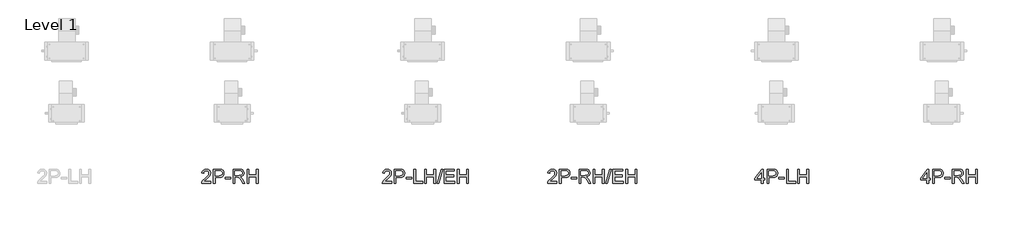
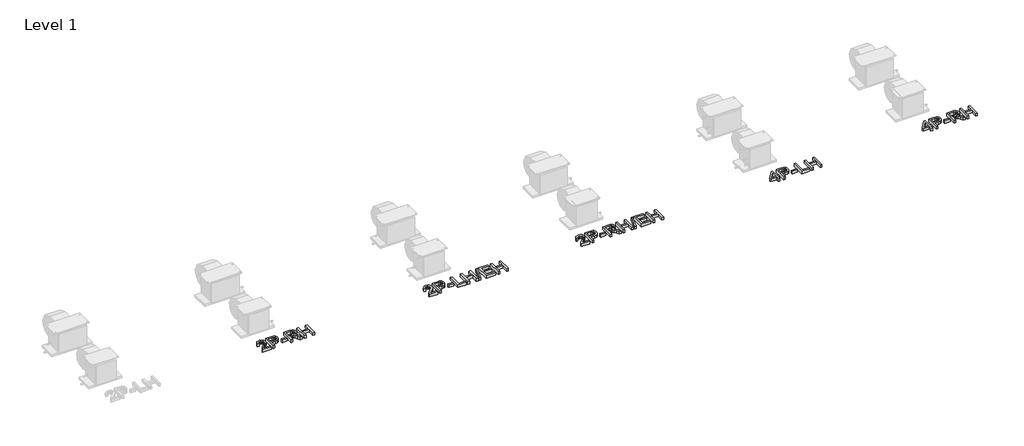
# One storey, part 2 of 2: 5 proxies.
"""IFC4 building model written with IfcOpenShell, lengths in millimetres."""

from ifc_helpers import new_model, si_unit, origin, origin_with_axes, place, context, project, spatial, polyline, outline, extrude, element, save

model = new_model("IFC4")

# Units and contexts
model_context = context("Model", 3, world=origin())
ifc_project = project(units=[si_unit("LENGTHUNIT", "METRE", prefix="MILLI")], contexts=[model_context])

# Site, building, storey
site = spatial("IfcSite", under=ifc_project)
building = spatial("IfcBuilding", under=site)
storey = spatial("IfcBuildingStorey", under=building, Name="Level 1", Elevation=0.0)

# Proxies
placement = place(None, origin())
element("IfcBuildingElementProxy", 1, Name="24\" Arial", ObjectType="24\" Arial", at=placement, inside=storey, context=model_context, shape_type="SweptSolid", body=[
    extrude(outline(polyline([(-21363.2392006, -5424.2929428), (-21363.2392006, -5452.9983334), (-21513.9425014, -5452.9983334), (-21510.8589145, -5433.2073121), (-21493.4226323, -5402.7358672), (-21457.4848288, -5369.4611614), (-21426.5087969, -5341.9471567), (-21407.9231778, -5321.6375321), (-21398.6303682, -5305.1543586), (-21395.5327651, -5289.1197068), (-21398.4551644, -5274.7459871), (-21407.2223626, -5262.7970879), (-21420.6990389, -5254.7447212), (-21437.7498728, -5252.060599), (-21455.6557011, -5254.6816479), (-21469.5668829, -5262.5447944), (-21478.5443256, -5275.0333213), (-21481.6489369, -5291.5305111), (-21510.3543276, -5287.9423373), (-21503.3952326, -5260.176039), (-21488.3487303, -5239.8944471), (-21465.9997335, -5227.4900181), (-21437.1331554, -5223.3552084), (-21408.0563327, -5227.9525561), (-21385.7493849, -5241.7445992), (-21371.557877, -5262.3485661), (-21366.8273744, -5287.3816851), (-21371.9293091, -5314.6013475), (-21388.889037, -5342.746086), (-21430.0128729, -5382.0758351), (-21463.0352852, -5409.687954), (-21475.9863501, -5424.2929428), (-21363.2392006, -5424.2929428)])), origin_with_axes(), (0.0, 0.0, 1.0), 50.8),
    extrude(outline(polyline([(-21323.7692885, -5452.9983334), (-21323.7692885, -5223.3552084), (-21238.6622905, -5223.3552084), (-21204.3503783, -5225.5417518), (-21189.0515824, -5229.6275044), (-21176.4579333, -5236.2782407), (-21166.3171373, -5245.7953111), (-21158.3769011, -5258.4800662), (-21153.2469338, -5273.4424708), (-21151.5369447, -5289.7924894), (-21156.1553169, -5316.8579725), (-21170.0104334, -5339.4102056), (-21181.1060901, -5348.2895342), (-21195.9195714, -5354.6319118), (-21236.7000079, -5359.7058138), (-21295.0638979, -5359.7058138), (-21295.0638979, -5452.9983334), (-21323.7692885, -5452.9983334)]), holes=[polyline([(-21295.0638979, -5331.0004232), (-21235.0180515, -5331.0004232), (-21209.5644434, -5328.3653581), (-21192.7448785, -5320.4601626), (-21183.3679712, -5307.7754075), (-21180.2423354, -5290.8016633), (-21182.0854793, -5277.9066636), (-21187.6149113, -5267.0300117), (-21196.1438323, -5258.8444901), (-21206.9854434, -5254.0228816), (-21235.6908341, -5252.060599), (-21295.0638979, -5252.060599), (-21295.0638979, -5331.0004232)])]), origin_with_axes(), (0.0, 0.0, 1.0), 50.8),
    extrude(outline(polyline([(-21130.0079018, -5384.8230306), (-21130.0079018, -5356.11764), (-21040.3035561, -5356.11764), (-21040.3035561, -5384.8230306), (-21130.0079018, -5384.8230306)])), origin_with_axes(), (0.0, 0.0, 1.0), 50.8),
    extrude(outline(polyline([(-21004.4218178, -5452.9983334), (-21004.4218178, -5223.3552084), (-20975.7164272, -5223.3552084), (-20975.7164272, -5424.2929428), (-20860.8948647, -5424.2929428), (-20860.8948647, -5452.9983334), (-21004.4218178, -5452.9983334)])), origin_with_axes(), (0.0, 0.0, 1.0), 50.8),
    extrude(outline(polyline([(-20828.6013002, -5452.9983334), (-20828.6013002, -5223.3552084), (-20799.8959096, -5223.3552084), (-20799.8959096, -5316.6477279), (-20677.8979994, -5316.6477279), (-20677.8979994, -5223.3552084), (-20649.1926088, -5223.3552084), (-20649.1926088, -5452.9983334), (-20677.8979994, -5452.9983334), (-20677.8979994, -5345.3531185), (-20799.8959096, -5345.3531185), (-20799.8959096, -5452.9983334), (-20828.6013002, -5452.9983334)])), origin_with_axes(), (0.0, 0.0, 1.0), 50.8),
    extrude(outline(polyline([(-20624.075392, -5452.9983334), (-20559.4882631, -5223.3552084), (-20533.5861333, -5223.3552084), (-20598.1732622, -5452.9983334), (-20624.075392, -5452.9983334)])), origin_with_axes(), (0.0, 0.0, 1.0), 50.8),
    extrude(outline(polyline([(-20509.2538295, -5452.9983334), (-20509.2538295, -5223.3552084), (-20344.1978334, -5223.3552084), (-20344.1978334, -5252.060599), (-20480.5484389, -5252.060599), (-20480.5484389, -5320.2359017), (-20351.3741811, -5320.2359017), (-20351.3741811, -5348.9412924), (-20480.5484389, -5348.9412924), (-20480.5484389, -5424.2929428), (-20340.6096596, -5424.2929428), (-20340.6096596, -5452.9983334), (-20509.2538295, -5452.9983334)])), origin_with_axes(), (0.0, 0.0, 1.0), 50.8),
    extrude(outline(polyline([(-20297.5515736, -5452.9983334), (-20297.5515736, -5223.3552084), (-20268.846183, -5223.3552084), (-20268.846183, -5316.6477279), (-20146.8482729, -5316.6477279), (-20146.8482729, -5223.3552084), (-20118.1428822, -5223.3552084), (-20118.1428822, -5452.9983334), (-20146.8482729, -5452.9983334), (-20146.8482729, -5345.3531185), (-20268.846183, -5345.3531185), (-20268.846183, -5452.9983334), (-20297.5515736, -5452.9983334)])), origin_with_axes(), (0.0, 0.0, 1.0), 50.8),
])
element("IfcBuildingElementProxy", 2, Name="24\" Arial", ObjectType="24\" Arial", at=placement, inside=storey, context=model_context, shape_type="SweptSolid", body=[
    extrude(outline(polyline([(-18675.7248629, -5424.2929428), (-18675.7248629, -5452.9983334), (-18826.4281637, -5452.9983334), (-18823.3445768, -5433.2073121), (-18805.9082946, -5402.7358672), (-18769.9704911, -5369.4611614), (-18738.9944592, -5341.9471567), (-18720.4088401, -5321.6375321), (-18711.1160305, -5305.1543586), (-18708.0184273, -5289.1197068), (-18710.9408267, -5274.7459871), (-18719.7080249, -5262.7970879), (-18733.1847012, -5254.7447212), (-18750.235535, -5252.060599), (-18768.1413634, -5254.6816479), (-18782.0525452, -5262.5447944), (-18791.0299879, -5275.0333213), (-18794.1345992, -5291.5305111), (-18822.8399898, -5287.9423373), (-18815.8808949, -5260.176039), (-18800.8343925, -5239.8944471), (-18778.4853958, -5227.4900181), (-18749.6188177, -5223.3552084), (-18720.541995, -5227.9525561), (-18698.2350471, -5241.7445992), (-18684.0435393, -5262.3485661), (-18679.3130367, -5287.3816851), (-18684.4149714, -5314.6013475), (-18701.3746992, -5342.746086), (-18742.4985352, -5382.0758351), (-18775.5209475, -5409.687954), (-18788.4720124, -5424.2929428), (-18675.7248629, -5424.2929428)])), origin_with_axes(), (0.0, 0.0, 1.0), 50.8),
    extrude(outline(polyline([(-18636.2549508, -5452.9983334), (-18636.2549508, -5223.3552084), (-18551.1479528, -5223.3552084), (-18516.8360406, -5225.5417518), (-18501.5372447, -5229.6275044), (-18488.9435956, -5236.2782407), (-18478.8027996, -5245.7953111), (-18470.8625634, -5258.4800662), (-18465.7325961, -5273.4424708), (-18464.022607, -5289.7924894), (-18468.6409792, -5316.8579725), (-18482.4960957, -5339.4102056), (-18493.5917524, -5348.2895342), (-18508.4052337, -5354.6319118), (-18549.1856702, -5359.7058138), (-18607.5495602, -5359.7058138), (-18607.5495602, -5452.9983334), (-18636.2549508, -5452.9983334)]), holes=[polyline([(-18607.5495602, -5331.0004232), (-18547.5037137, -5331.0004232), (-18522.0501057, -5328.3653581), (-18505.2305408, -5320.4601626), (-18495.8536334, -5307.7754075), (-18492.7279977, -5290.8016633), (-18494.5711416, -5277.9066636), (-18500.1005736, -5267.0300117), (-18508.6294946, -5258.8444901), (-18519.4711057, -5254.0228816), (-18548.1764963, -5252.060599), (-18607.5495602, -5252.060599), (-18607.5495602, -5331.0004232)])]), origin_with_axes(), (0.0, 0.0, 1.0), 50.8),
    extrude(outline(polyline([(-18442.4935641, -5384.8230306), (-18442.4935641, -5356.11764), (-18352.7892184, -5356.11764), (-18352.7892184, -5384.8230306), (-18442.4935641, -5384.8230306)])), origin_with_axes(), (0.0, 0.0, 1.0), 50.8),
    extrude(outline(polyline([(-18316.9074801, -5452.9983334), (-18316.9074801, -5223.3552084), (-18217.9523737, -5223.3552084), (-18191.3564368, -5224.90401), (-18172.0069292, -5229.5504148), (-18157.8644784, -5238.1283928), (-18146.8897124, -5251.4719142), (-18139.8465196, -5268.0181611), (-18137.4987887, -5286.2043156), (-18141.388313, -5308.8266303), (-18153.0568861, -5327.580445), (-18172.8549155, -5341.3304393), (-18201.1328089, -5348.9412924), (-18184.817831, -5361.2195747), (-18161.5507664, -5390.7659435), (-18123.2582238, -5452.9983334), (-18156.6170273, -5452.9983334), (-18186.4997875, -5405.3989649), (-18208.0848957, -5373.8903135), (-18223.2505366, -5359.0049986), (-18236.9024167, -5353.5386401), (-18253.5537859, -5352.5294662), (-18288.2020894, -5352.5294662), (-18288.2020894, -5452.9983334), (-18316.9074801, -5452.9983334)]), holes=[polyline([(-18288.2020894, -5323.8240756), (-18223.9513518, -5323.8240756), (-18191.181233, -5319.7593474), (-18180.4026953, -5314.4752008), (-18172.5675813, -5306.7522173), (-18167.7950298, -5297.4103506), (-18166.2041793, -5287.2695547), (-18169.2387091, -5273.267267), (-18178.3422986, -5261.9841422), (-18194.0055183, -5254.5414848), (-18216.718939, -5252.060599), (-18288.2020894, -5252.060599), (-18288.2020894, -5323.8240756)])]), origin_with_axes(), (0.0, 0.0, 1.0), 50.8),
    extrude(outline(polyline([(-18087.2643551, -5452.9983334), (-18087.2643551, -5223.3552084), (-18058.5589644, -5223.3552084), (-18058.5589644, -5316.6477279), (-17936.5610543, -5316.6477279), (-17936.5610543, -5223.3552084), (-17907.8556637, -5223.3552084), (-17907.8556637, -5452.9983334), (-17936.5610543, -5452.9983334), (-17936.5610543, -5345.3531185), (-18058.5589644, -5345.3531185), (-18058.5589644, -5452.9983334), (-18087.2643551, -5452.9983334)])), origin_with_axes(), (0.0, 0.0, 1.0), 50.8),
    extrude(outline(polyline([(-17882.7384469, -5452.9983334), (-17818.151318, -5223.3552084), (-17792.2491881, -5223.3552084), (-17856.836317, -5452.9983334), (-17882.7384469, -5452.9983334)])), origin_with_axes(), (0.0, 0.0, 1.0), 50.8),
    extrude(outline(polyline([(-17767.9168844, -5452.9983334), (-17767.9168844, -5223.3552084), (-17602.8608883, -5223.3552084), (-17602.8608883, -5252.060599), (-17739.2114937, -5252.060599), (-17739.2114937, -5320.2359017), (-17610.0372359, -5320.2359017), (-17610.0372359, -5348.9412924), (-17739.2114937, -5348.9412924), (-17739.2114937, -5424.2929428), (-17599.2727144, -5424.2929428), (-17599.2727144, -5452.9983334), (-17767.9168844, -5452.9983334)])), origin_with_axes(), (0.0, 0.0, 1.0), 50.8),
    extrude(outline(polyline([(-17556.2146285, -5452.9983334), (-17556.2146285, -5223.3552084), (-17527.5092379, -5223.3552084), (-17527.5092379, -5316.6477279), (-17405.5113277, -5316.6477279), (-17405.5113277, -5223.3552084), (-17376.8059371, -5223.3552084), (-17376.8059371, -5452.9983334), (-17405.5113277, -5452.9983334), (-17405.5113277, -5345.3531185), (-17527.5092379, -5345.3531185), (-17527.5092379, -5452.9983334), (-17556.2146285, -5452.9983334)])), origin_with_axes(), (0.0, 0.0, 1.0), 50.8),
])
element("IfcBuildingElementProxy", 3, Name="24\" Arial", ObjectType="24\" Arial", at=placement, inside=storey, context=model_context, shape_type="SweptSolid", body=[
    extrude(outline(polyline([(-12659.121763, -5452.9983334), (-12659.121763, -5399.175726), (-12763.178804, -5399.175726), (-12763.178804, -5370.4703353), (-12651.9454153, -5226.9433822), (-12630.4163723, -5226.9433822), (-12630.4163723, -5370.4703353), (-12601.7109817, -5370.4703353), (-12601.7109817, -5399.175726), (-12630.4163723, -5399.175726), (-12630.4163723, -5452.9983334), (-12659.121763, -5452.9983334)]), holes=[polyline([(-12659.121763, -5370.4703353), (-12659.121763, -5281.7751635), (-12727.8577179, -5370.4703353), (-12659.121763, -5370.4703353)])]), origin_with_axes(), (0.0, 0.0, 1.0), 50.8),
    extrude(outline(polyline([(-12565.8292434, -5452.9983334), (-12565.8292434, -5223.3552084), (-12480.7222454, -5223.3552084), (-12446.4103332, -5225.5417518), (-12431.1115374, -5229.6275044), (-12418.5178882, -5236.2782407), (-12408.3770923, -5245.7953111), (-12400.436856, -5258.4800662), (-12395.3068888, -5273.4424708), (-12393.5968997, -5289.7924894), (-12398.2152719, -5316.8579725), (-12412.0703884, -5339.4102056), (-12423.166045, -5348.2895342), (-12437.9795263, -5354.6319118), (-12478.7599629, -5359.7058138), (-12537.1238528, -5359.7058138), (-12537.1238528, -5452.9983334), (-12565.8292434, -5452.9983334)]), holes=[polyline([(-12537.1238528, -5331.0004232), (-12477.0780064, -5331.0004232), (-12451.6243983, -5328.3653581), (-12434.8048335, -5320.4601626), (-12425.4279261, -5307.7754075), (-12422.3022903, -5290.8016633), (-12424.1454343, -5277.9066636), (-12429.6748662, -5267.0300117), (-12438.2037872, -5258.8444901), (-12449.0453984, -5254.0228816), (-12477.750789, -5252.060599), (-12537.1238528, -5252.060599), (-12537.1238528, -5331.0004232)])]), origin_with_axes(), (0.0, 0.0, 1.0), 50.8),
    extrude(outline(polyline([(-12372.0678567, -5384.8230306), (-12372.0678567, -5356.11764), (-12282.363511, -5356.11764), (-12282.363511, -5384.8230306), (-12372.0678567, -5384.8230306)])), origin_with_axes(), (0.0, 0.0, 1.0), 50.8),
    extrude(outline(polyline([(-12246.4817727, -5452.9983334), (-12246.4817727, -5223.3552084), (-12147.5266664, -5223.3552084), (-12120.9307295, -5224.90401), (-12101.5812218, -5229.5504148), (-12087.4387711, -5238.1283928), (-12076.464005, -5251.4719142), (-12069.4208122, -5268.0181611), (-12067.0730813, -5286.2043156), (-12070.9626057, -5308.8266303), (-12082.6311788, -5327.580445), (-12102.4292082, -5341.3304393), (-12130.7071016, -5348.9412924), (-12114.3921237, -5361.2195747), (-12091.125059, -5390.7659435), (-12052.8325164, -5452.9983334), (-12086.19132, -5452.9983334), (-12116.0740802, -5405.3989649), (-12137.6591883, -5373.8903135), (-12152.8248293, -5359.0049986), (-12166.4767094, -5353.5386401), (-12183.1280786, -5352.5294662), (-12217.7763821, -5352.5294662), (-12217.7763821, -5452.9983334), (-12246.4817727, -5452.9983334)]), holes=[polyline([(-12217.7763821, -5323.8240756), (-12153.5256445, -5323.8240756), (-12120.7555257, -5319.7593474), (-12109.9769879, -5314.4752008), (-12102.141874, -5306.7522173), (-12097.3693224, -5297.4103506), (-12095.7784719, -5287.2695547), (-12098.8130018, -5273.267267), (-12107.9165912, -5261.9841422), (-12123.579811, -5254.5414848), (-12146.2932316, -5252.060599), (-12217.7763821, -5252.060599), (-12217.7763821, -5323.8240756)])]), origin_with_axes(), (0.0, 0.0, 1.0), 50.8),
    extrude(outline(polyline([(-12016.8386477, -5452.9983334), (-12016.8386477, -5223.3552084), (-11988.1332571, -5223.3552084), (-11988.1332571, -5316.6477279), (-11866.1353469, -5316.6477279), (-11866.1353469, -5223.3552084), (-11837.4299563, -5223.3552084), (-11837.4299563, -5452.9983334), (-11866.1353469, -5452.9983334), (-11866.1353469, -5345.3531185), (-11988.1332571, -5345.3531185), (-11988.1332571, -5452.9983334), (-12016.8386477, -5452.9983334)])), origin_with_axes(), (0.0, 0.0, 1.0), 50.8),
])
element("IfcBuildingElementProxy", 4, Name="24\" Arial", ObjectType="24\" Arial", at=placement, inside=storey, context=model_context, shape_type="SweptSolid", body=[
    extrude(outline(polyline([(-15352.2690462, -5452.9983334), (-15352.2690462, -5399.175726), (-15456.3260872, -5399.175726), (-15456.3260872, -5370.4703353), (-15345.0926986, -5226.9433822), (-15323.5636556, -5226.9433822), (-15323.5636556, -5370.4703353), (-15294.858265, -5370.4703353), (-15294.858265, -5399.175726), (-15323.5636556, -5399.175726), (-15323.5636556, -5452.9983334), (-15352.2690462, -5452.9983334)]), holes=[polyline([(-15352.2690462, -5370.4703353), (-15352.2690462, -5281.7751635), (-15421.0050011, -5370.4703353), (-15352.2690462, -5370.4703353)])]), origin_with_axes(), (0.0, 0.0, 1.0), 50.8),
    extrude(outline(polyline([(-15258.9765267, -5452.9983334), (-15258.9765267, -5223.3552084), (-15173.8695287, -5223.3552084), (-15139.5576165, -5225.5417518), (-15124.2588206, -5229.6275044), (-15111.6651715, -5236.2782407), (-15101.5243755, -5245.7953111), (-15093.5841393, -5258.4800662), (-15088.454172, -5273.4424708), (-15086.7441829, -5289.7924894), (-15091.3625551, -5316.8579725), (-15105.2176716, -5339.4102056), (-15116.3133283, -5348.2895342), (-15131.1268096, -5354.6319118), (-15171.9072462, -5359.7058138), (-15230.2711361, -5359.7058138), (-15230.2711361, -5452.9983334), (-15258.9765267, -5452.9983334)]), holes=[polyline([(-15230.2711361, -5331.0004232), (-15170.2252897, -5331.0004232), (-15144.7716816, -5328.3653581), (-15127.9521168, -5320.4601626), (-15118.5752094, -5307.7754075), (-15115.4495736, -5290.8016633), (-15117.2927176, -5277.9066636), (-15122.8221495, -5267.0300117), (-15131.3510705, -5258.8444901), (-15142.1926816, -5254.0228816), (-15170.8980723, -5252.060599), (-15230.2711361, -5252.060599), (-15230.2711361, -5331.0004232)])]), origin_with_axes(), (0.0, 0.0, 1.0), 50.8),
    extrude(outline(polyline([(-15065.21514, -5384.8230306), (-15065.21514, -5356.11764), (-14975.5107943, -5356.11764), (-14975.5107943, -5384.8230306), (-15065.21514, -5384.8230306)])), origin_with_axes(), (0.0, 0.0, 1.0), 50.8),
    extrude(outline(polyline([(-14939.629056, -5452.9983334), (-14939.629056, -5223.3552084), (-14910.9236654, -5223.3552084), (-14910.9236654, -5424.2929428), (-14796.1021029, -5424.2929428), (-14796.1021029, -5452.9983334), (-14939.629056, -5452.9983334)])), origin_with_axes(), (0.0, 0.0, 1.0), 50.8),
    extrude(outline(polyline([(-14763.8085384, -5452.9983334), (-14763.8085384, -5223.3552084), (-14735.1031478, -5223.3552084), (-14735.1031478, -5316.6477279), (-14613.1052376, -5316.6477279), (-14613.1052376, -5223.3552084), (-14584.399847, -5223.3552084), (-14584.399847, -5452.9983334), (-14613.1052376, -5452.9983334), (-14613.1052376, -5345.3531185), (-14735.1031478, -5345.3531185), (-14735.1031478, -5452.9983334), (-14763.8085384, -5452.9983334)])), origin_with_axes(), (0.0, 0.0, 1.0), 50.8),
])
element("IfcBuildingElementProxy", 5, Name="24\" Arial", ObjectType="24\" Arial", at=placement, inside=storey, context=model_context, shape_type="SweptSolid", body=[
    extrude(outline(polyline([(-24302.5799338, -5424.2929428), (-24302.5799338, -5452.9983334), (-24453.2832346, -5452.9983334), (-24450.1996477, -5433.2073121), (-24432.7633655, -5402.7358672), (-24396.825562, -5369.4611614), (-24365.8495302, -5341.9471567), (-24347.263911, -5321.6375321), (-24337.9711015, -5305.1543586), (-24334.8734983, -5289.1197068), (-24337.7958977, -5274.7459871), (-24346.5630958, -5262.7970879), (-24360.0397721, -5254.7447212), (-24377.090606, -5252.060599), (-24394.9964344, -5254.6816479), (-24408.9076161, -5262.5447944), (-24417.8850588, -5275.0333213), (-24420.9896702, -5291.5305111), (-24449.6950608, -5287.9423373), (-24442.7359658, -5260.176039), (-24427.6894635, -5239.8944471), (-24405.3404667, -5227.4900181), (-24376.4738886, -5223.3552084), (-24347.3970659, -5227.9525561), (-24325.0901181, -5241.7445992), (-24310.8986103, -5262.3485661), (-24306.1681077, -5287.3816851), (-24311.2700423, -5314.6013475), (-24328.2297702, -5342.746086), (-24369.3536062, -5382.0758351), (-24402.3760184, -5409.687954), (-24415.3270833, -5424.2929428), (-24302.5799338, -5424.2929428)])), origin_with_axes(), (0.0, 0.0, 1.0), 50.8),
    extrude(outline(polyline([(-24263.1100217, -5452.9983334), (-24263.1100217, -5223.3552084), (-24178.0030237, -5223.3552084), (-24143.6911115, -5225.5417518), (-24128.3923157, -5229.6275044), (-24115.7986665, -5236.2782407), (-24105.6578706, -5245.7953111), (-24097.7176343, -5258.4800662), (-24092.5876671, -5273.4424708), (-24090.877678, -5289.7924894), (-24095.4960501, -5316.8579725), (-24109.3511667, -5339.4102056), (-24120.4468233, -5348.2895342), (-24135.2603046, -5354.6319118), (-24176.0407412, -5359.7058138), (-24234.4046311, -5359.7058138), (-24234.4046311, -5452.9983334), (-24263.1100217, -5452.9983334)]), holes=[polyline([(-24234.4046311, -5331.0004232), (-24174.3587847, -5331.0004232), (-24148.9051766, -5328.3653581), (-24132.0856118, -5320.4601626), (-24122.7087044, -5307.7754075), (-24119.5830686, -5290.8016633), (-24121.4262126, -5277.9066636), (-24126.9556445, -5267.0300117), (-24135.4845655, -5258.8444901), (-24146.3261767, -5254.0228816), (-24175.0315673, -5252.060599), (-24234.4046311, -5252.060599), (-24234.4046311, -5331.0004232)])]), origin_with_axes(), (0.0, 0.0, 1.0), 50.8),
    extrude(outline(polyline([(-24069.348635, -5384.8230306), (-24069.348635, -5356.11764), (-23979.6442893, -5356.11764), (-23979.6442893, -5384.8230306), (-24069.348635, -5384.8230306)])), origin_with_axes(), (0.0, 0.0, 1.0), 50.8),
    extrude(outline(polyline([(-23943.762551, -5452.9983334), (-23943.762551, -5223.3552084), (-23844.8074447, -5223.3552084), (-23818.2115078, -5224.90401), (-23798.8620001, -5229.5504148), (-23784.7195493, -5238.1283928), (-23773.7447833, -5251.4719142), (-23766.7015905, -5268.0181611), (-23764.3538596, -5286.2043156), (-23768.243384, -5308.8266303), (-23779.9119571, -5327.580445), (-23799.7099865, -5341.3304393), (-23827.9878798, -5348.9412924), (-23811.672902, -5361.2195747), (-23788.4058373, -5390.7659435), (-23750.1132947, -5452.9983334), (-23783.4720983, -5452.9983334), (-23813.3548584, -5405.3989649), (-23834.9399666, -5373.8903135), (-23850.1056076, -5359.0049986), (-23863.7574877, -5353.5386401), (-23880.4088569, -5352.5294662), (-23915.0571604, -5352.5294662), (-23915.0571604, -5452.9983334), (-23943.762551, -5452.9983334)]), holes=[polyline([(-23915.0571604, -5323.8240756), (-23850.8064228, -5323.8240756), (-23818.036304, -5319.7593474), (-23807.2577662, -5314.4752008), (-23799.4226523, -5306.7522173), (-23794.6501007, -5297.4103506), (-23793.0592502, -5287.2695547), (-23796.09378, -5273.267267), (-23805.1973695, -5261.9841422), (-23820.8605892, -5254.5414848), (-23843.5740099, -5252.060599), (-23915.0571604, -5252.060599), (-23915.0571604, -5323.8240756)])]), origin_with_axes(), (0.0, 0.0, 1.0), 50.8),
    extrude(outline(polyline([(-23714.119426, -5452.9983334), (-23714.119426, -5223.3552084), (-23685.4140354, -5223.3552084), (-23685.4140354, -5316.6477279), (-23563.4161252, -5316.6477279), (-23563.4161252, -5223.3552084), (-23534.7107346, -5223.3552084), (-23534.7107346, -5452.9983334), (-23563.4161252, -5452.9983334), (-23563.4161252, -5345.3531185), (-23685.4140354, -5345.3531185), (-23685.4140354, -5452.9983334), (-23714.119426, -5452.9983334)])), origin_with_axes(), (0.0, 0.0, 1.0), 50.8),
])

save(model, "model.ifc")
